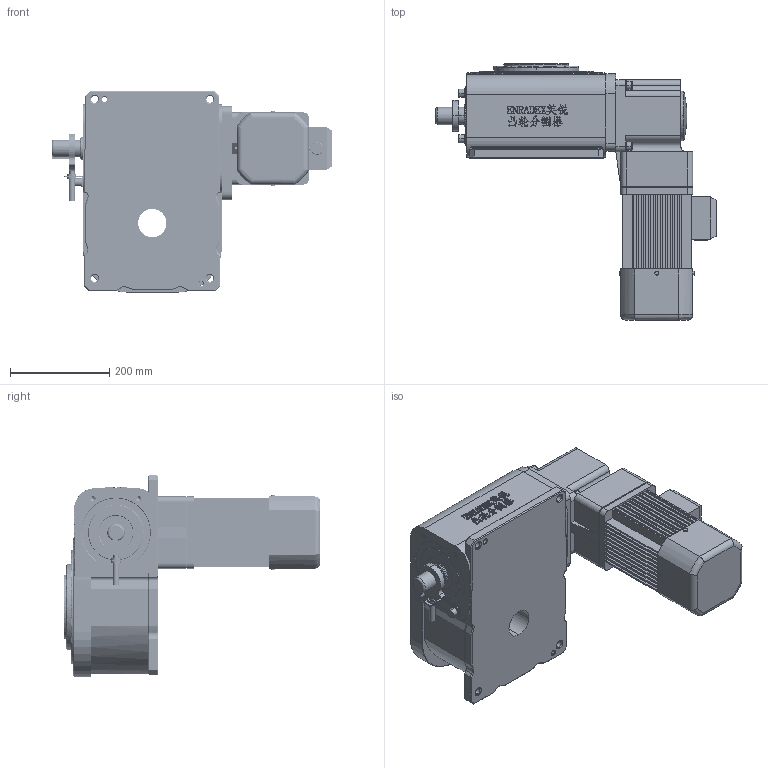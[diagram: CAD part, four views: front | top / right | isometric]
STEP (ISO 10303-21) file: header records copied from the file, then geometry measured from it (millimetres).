
FILE_DESCRIPTION (( 'STEP AP214' ), '1' );
FILE_NAME ('ER-RU150DA英锐凸轮分割器固定盘壳体法兰面销孔3D垂直直联式右侧JY(电话15062628977)AA.STEP', '2022-10-09T09:32:36', ( '微软用户' ), ( '微软中国' ), 'SwSTEP 2.0', 'SolidWorks 2017', '' );
FILE_SCHEMA (( 'AUTOMOTIVE_DESIGN' ));
Length unit declared in the file: millimetre
Products named in the file (1): ER-RU150DA英锐凸轮分割器固定盘壳体法兰面销孔3D垂直直联式右侧JY(电话15062628977)AA
Bounding box: 564 x 516 x 405 mm (x, y, z)
Volume: 26190862.4 mm3; surface area: 1186282.7 mm2
Topology: 3 solids, 13 shells, 3155 faces, 8533 edges, 5545 vertices
Faces by surface type: plane 1563, cylinder 871, bspline 508, cone 209, torus 4
Entity records: 210336 total; most frequent: CARTESIAN_POINT 118024, ORIENTED_EDGE 16966, DIRECTION 12195, EDGE_CURVE 8483, VERTEX_POINT 5545, LINE 5347, VECTOR 5347, AXIS2_PLACEMENT_3D 3424
